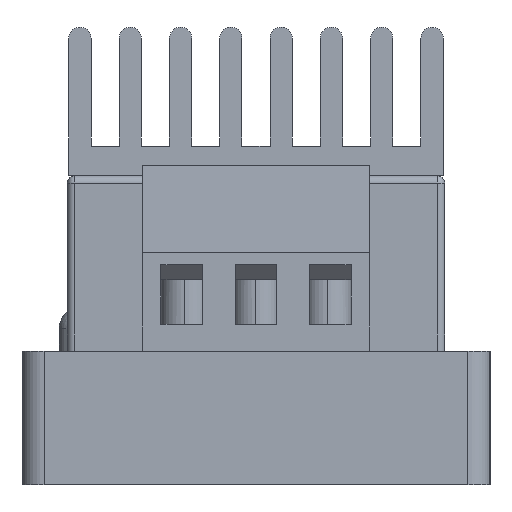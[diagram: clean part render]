
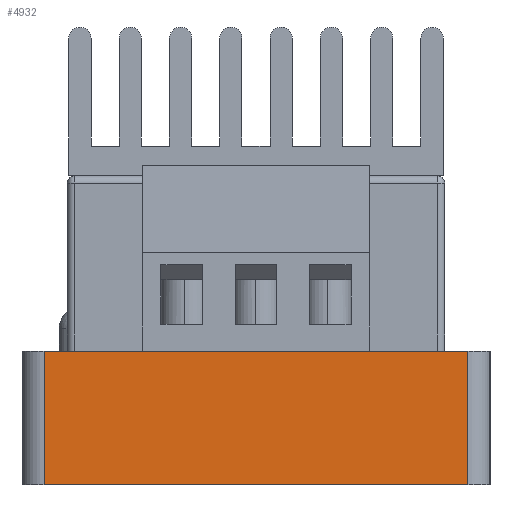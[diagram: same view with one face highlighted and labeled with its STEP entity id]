
A CAD part, left-side view. The second image highlights one B-rep face of the part: STEP entity #4932.
In plain terms, the highlighted planar face has unit normal (-1, 0, 0).
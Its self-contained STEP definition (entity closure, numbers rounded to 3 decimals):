
#1331=LINE('',#19394,#2505);
#1332=LINE('',#19397,#2506);
#1333=LINE('',#19399,#2507);
#1334=LINE('',#19401,#2508);
#2505=VECTOR('',#16158,1.);
#2506=VECTOR('',#16159,1.);
#2507=VECTOR('',#16160,1.);
#2508=VECTOR('',#16161,1.);
#3723=PLANE('',#13094);
#4313=FACE_OUTER_BOUND('',#5911,.T.);
#4932=ADVANCED_FACE('',(#4313),#3723,.F.);
#5911=EDGE_LOOP('',(#8900,#8901,#8902,#8903));
#8900=ORIENTED_EDGE('',*,*,#11496,.F.);
#8901=ORIENTED_EDGE('',*,*,#11497,.T.);
#8902=ORIENTED_EDGE('',*,*,#11498,.T.);
#8903=ORIENTED_EDGE('',*,*,#11499,.T.);
#9990=VERTEX_POINT('',#19395);
#9991=VERTEX_POINT('',#19396);
#9992=VERTEX_POINT('',#19398);
#9993=VERTEX_POINT('',#19400);
#11496=EDGE_CURVE('',#9990,#9991,#1331,.T.);
#11497=EDGE_CURVE('',#9990,#9992,#1332,.T.);
#11498=EDGE_CURVE('',#9992,#9993,#1333,.T.);
#11499=EDGE_CURVE('',#9993,#9991,#1334,.T.);
#13094=AXIS2_PLACEMENT_3D('',#19402,#16162,#16163);
#16158=DIRECTION('',(0.,-1.,0.));
#16159=DIRECTION('',(0.,0.,-1.));
#16160=DIRECTION('',(0.,-1.,0.));
#16161=DIRECTION('',(0.,0.,1.));
#16162=DIRECTION('',(1.,0.,0.));
#16163=DIRECTION('',(0.,-1.,0.));
#19394=CARTESIAN_POINT('',(-38.,-15.75,0.));
#19395=CARTESIAN_POINT('',(-38.,14.25,0.));
#19396=CARTESIAN_POINT('',(-38.,-14.25,0.));
#19397=CARTESIAN_POINT('',(-38.,14.25,0.));
#19398=CARTESIAN_POINT('',(-38.,14.25,-9.));
#19399=CARTESIAN_POINT('',(-38.,-15.75,-9.));
#19400=CARTESIAN_POINT('',(-38.,-14.25,-9.));
#19401=CARTESIAN_POINT('',(-38.,-14.25,0.));
#19402=CARTESIAN_POINT('',(-38.,-15.75,0.));
